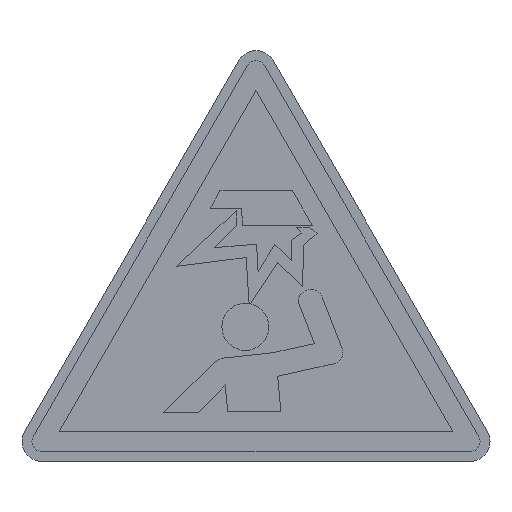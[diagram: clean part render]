
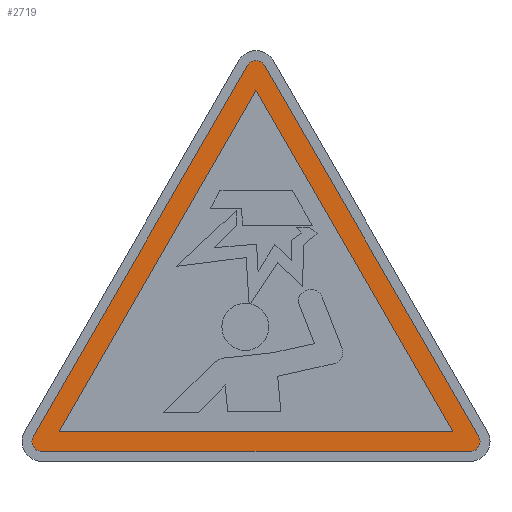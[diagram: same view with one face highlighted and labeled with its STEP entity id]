
A CAD part, top view. The second image highlights one B-rep face of the part: STEP entity #2719.
In plain terms, the highlighted planar face has unit normal (0, 0, 1).
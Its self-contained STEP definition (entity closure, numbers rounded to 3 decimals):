
#15 = VERTEX_POINT ( 'NONE', #2472 ) ;
#16 = VERTEX_POINT ( 'NONE', #1085 ) ;
#90 = CARTESIAN_POINT ( 'NONE',  ( 22.402, 2.5, 0.22 ) ) ;
#146 = ORIENTED_EDGE ( 'NONE', *, *, #1188, .T. ) ;
#162 = CARTESIAN_POINT ( 'NONE',  ( -21.536, 1., 0.22 ) ) ;
#209 = ORIENTED_EDGE ( 'NONE', *, *, #1916, .T. ) ;
#238 = VECTOR ( 'NONE', #1335, 1000. ) ;
#280 = ORIENTED_EDGE ( 'NONE', *, *, #1088, .T. ) ;
#315 = DIRECTION ( 'NONE',  ( -0.5, -0.866, 0. ) ) ;
#381 = CIRCLE ( 'NONE', #1173, 1. ) ;
#417 = CIRCLE ( 'NONE', #815, 1. ) ;
#430 = FACE_BOUND ( 'NONE', #2927, .T. ) ;
#594 = DIRECTION ( 'NONE',  ( -0.5, 0.866, 0. ) ) ;
#599 = LINE ( 'NONE', #612, #913 ) ;
#612 = CARTESIAN_POINT ( 'NONE',  ( 0., 37.301, 0.22 ) ) ;
#657 = ORIENTED_EDGE ( 'NONE', *, *, #2873, .T. ) ;
#699 = VERTEX_POINT ( 'NONE', #2560 ) ;
#774 = CARTESIAN_POINT ( 'NONE',  ( 0., 39.301, 0.22 ) ) ;
#779 = CARTESIAN_POINT ( 'NONE',  ( 19.804, 3., 0.22 ) ) ;
#791 = CARTESIAN_POINT ( 'NONE',  ( 0., 39.301, 0.22 ) ) ;
#814 = DIRECTION ( 'NONE',  ( 1., 0., 0. ) ) ;
#815 = AXIS2_PLACEMENT_3D ( 'NONE', #1723, #2640, #2655 ) ;
#820 = ORIENTED_EDGE ( 'NONE', *, *, #2853, .F. ) ;
#821 = CARTESIAN_POINT ( 'NONE',  ( -19.804, 3., 0.22 ) ) ;
#876 = VERTEX_POINT ( 'NONE', #1080 ) ;
#880 = VECTOR ( 'NONE', #2083, 1000. ) ;
#913 = VECTOR ( 'NONE', #2005, 1000. ) ;
#987 = LINE ( 'NONE', #2671, #1551 ) ;
#1000 = DIRECTION ( 'NONE',  ( 0., 0., 1. ) ) ;
#1080 = CARTESIAN_POINT ( 'NONE',  ( 0., 37.301, 0.22 ) ) ;
#1082 = VERTEX_POINT ( 'NONE', #1446 ) ;
#1085 = CARTESIAN_POINT ( 'NONE',  ( 19.804, 3., 0.22 ) ) ;
#1088 = EDGE_CURVE ( 'NONE', #2078, #2023, #381, .T. ) ;
#1089 = LINE ( 'NONE', #2976, #238 ) ;
#1140 = EDGE_CURVE ( 'NONE', #2580, #699, #1089, .T. ) ;
#1157 = ORIENTED_EDGE ( 'NONE', *, *, #1894, .F. ) ;
#1173 = AXIS2_PLACEMENT_3D ( 'NONE', #774, #1000, #1709 ) ;
#1188 = EDGE_CURVE ( 'NONE', #1328, #2078, #2043, .T. ) ;
#1328 = VERTEX_POINT ( 'NONE', #90 ) ;
#1335 = DIRECTION ( 'NONE',  ( 1., 0., 0. ) ) ;
#1374 = PLANE ( 'NONE',  #2617 ) ;
#1446 = CARTESIAN_POINT ( 'NONE',  ( -22.402, 2.5, 0.22 ) ) ;
#1493 = LINE ( 'NONE', #2702, #2734 ) ;
#1544 = EDGE_CURVE ( 'NONE', #16, #876, #2569, .T. ) ;
#1551 = VECTOR ( 'NONE', #315, 1000. ) ;
#1559 = CARTESIAN_POINT ( 'NONE',  ( -21.536, 2., 0.22 ) ) ;
#1571 = ORIENTED_EDGE ( 'NONE', *, *, #1544, .F. ) ;
#1599 = FACE_OUTER_BOUND ( 'NONE', #2651, .T. ) ;
#1681 = DIRECTION ( 'NONE',  ( 0., 0., 1. ) ) ;
#1709 = DIRECTION ( 'NONE',  ( 1., 0., 0. ) ) ;
#1723 = CARTESIAN_POINT ( 'NONE',  ( -21.536, 2., 0.22 ) ) ;
#1732 = DIRECTION ( 'NONE',  ( 1., 0., 0. ) ) ;
#1755 = ORIENTED_EDGE ( 'NONE', *, *, #1818, .T. ) ;
#1761 = VECTOR ( 'NONE', #594, 1000. ) ;
#1818 = EDGE_CURVE ( 'NONE', #2023, #1082, #987, .T. ) ;
#1872 = CARTESIAN_POINT ( 'NONE',  ( -0.866, 39.801, 0.22 ) ) ;
#1894 = EDGE_CURVE ( 'NONE', #2523, #16, #1493, .T. ) ;
#1916 = EDGE_CURVE ( 'NONE', #1082, #15, #2633, .T. ) ;
#1944 = DIRECTION ( 'NONE',  ( 1., 0., 0. ) ) ;
#1987 = ORIENTED_EDGE ( 'NONE', *, *, #1140, .T. ) ;
#2001 = DIRECTION ( 'NONE',  ( 1., 0., 0. ) ) ;
#2005 = DIRECTION ( 'NONE',  ( -0.5, -0.866, 0. ) ) ;
#2023 = VERTEX_POINT ( 'NONE', #1872 ) ;
#2043 = LINE ( 'NONE', #2288, #1761 ) ;
#2053 = ORIENTED_EDGE ( 'NONE', *, *, #2216, .T. ) ;
#2078 = VERTEX_POINT ( 'NONE', #2571 ) ;
#2083 = DIRECTION ( 'NONE',  ( -0.5, 0.866, 0. ) ) ;
#2216 = EDGE_CURVE ( 'NONE', #15, #2580, #417, .T. ) ;
#2275 = AXIS2_PLACEMENT_3D ( 'NONE', #1559, #2995, #2001 ) ;
#2288 = CARTESIAN_POINT ( 'NONE',  ( 22.402, 2.5, 0.22 ) ) ;
#2290 = DIRECTION ( 'NONE',  ( 0., 0., 1. ) ) ;
#2472 = CARTESIAN_POINT ( 'NONE',  ( -22.536, 2., 0.22 ) ) ;
#2523 = VERTEX_POINT ( 'NONE', #821 ) ;
#2560 = CARTESIAN_POINT ( 'NONE',  ( 21.536, 1., 0.22 ) ) ;
#2569 = LINE ( 'NONE', #779, #880 ) ;
#2571 = CARTESIAN_POINT ( 'NONE',  ( 0.866, 39.801, 0.22 ) ) ;
#2580 = VERTEX_POINT ( 'NONE', #162 ) ;
#2617 = AXIS2_PLACEMENT_3D ( 'NONE', #791, #1681, #1944 ) ;
#2633 = CIRCLE ( 'NONE', #2275, 1. ) ;
#2640 = DIRECTION ( 'NONE',  ( 0., 0., 1. ) ) ;
#2651 = EDGE_LOOP ( 'NONE', ( #280, #1755, #209, #2053, #1987, #657, #146 ) ) ;
#2655 = DIRECTION ( 'NONE',  ( 1., 0., 0. ) ) ;
#2671 = CARTESIAN_POINT ( 'NONE',  ( -0.866, 39.801, 0.22 ) ) ;
#2702 = CARTESIAN_POINT ( 'NONE',  ( -19.804, 3., 0.22 ) ) ;
#2704 = AXIS2_PLACEMENT_3D ( 'NONE', #2937, #2290, #814 ) ;
#2719 = ADVANCED_FACE ( 'NONE', ( #1599, #430 ), #1374, .T. ) ;
#2734 = VECTOR ( 'NONE', #1732, 1000. ) ;
#2853 = EDGE_CURVE ( 'NONE', #876, #2523, #599, .T. ) ;
#2873 = EDGE_CURVE ( 'NONE', #699, #1328, #3024, .T. ) ;
#2927 = EDGE_LOOP ( 'NONE', ( #1157, #820, #1571 ) ) ;
#2937 = CARTESIAN_POINT ( 'NONE',  ( 21.536, 2., 0.22 ) ) ;
#2976 = CARTESIAN_POINT ( 'NONE',  ( -21.536, 1., 0.22 ) ) ;
#2995 = DIRECTION ( 'NONE',  ( 0., 0., 1. ) ) ;
#3024 = CIRCLE ( 'NONE', #2704, 1. ) ;
